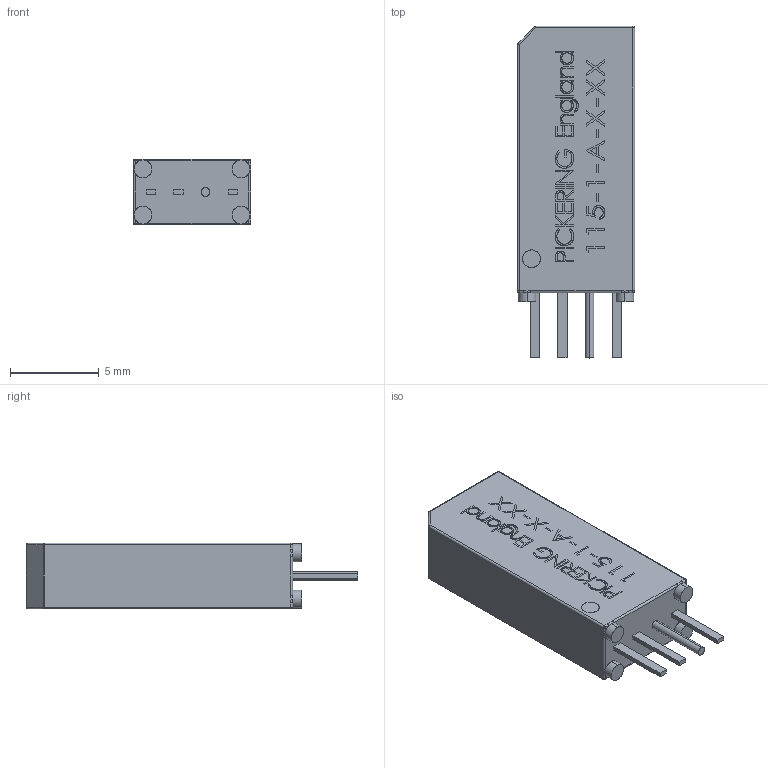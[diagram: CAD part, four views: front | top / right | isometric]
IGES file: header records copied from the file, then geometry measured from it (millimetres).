
Start section: SolidWorks IGES file using analytic representation for surfaces
Global section: file name: C:\Documents and Settings\alex.leming\Desktop\Replacement Models\115-1-A.IGS; native system: SolidWorks 2009; preprocessor: SolidWorks 2009; author: alex.leming; date: 101126.121403; units: millimetre
Bounding box: 6.6 x 18.67 x 3.7 mm (x, y, z)
Surface area: 379.3 mm2 (no closed solid volume)
Topology: 0 solids, 0 shells, 397 faces, 3202 edges, 3192 vertices
Faces by surface type: bspline 352, revolution 45
